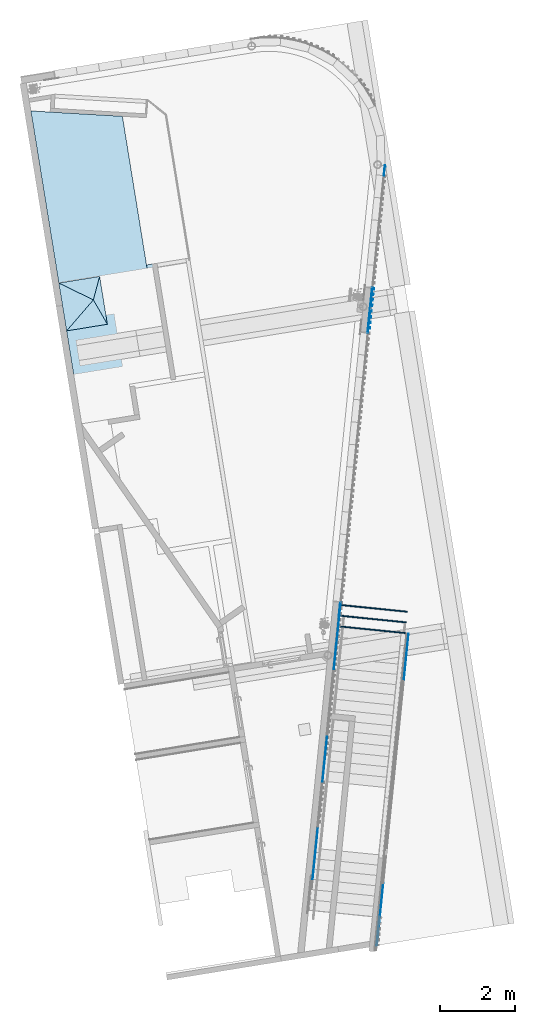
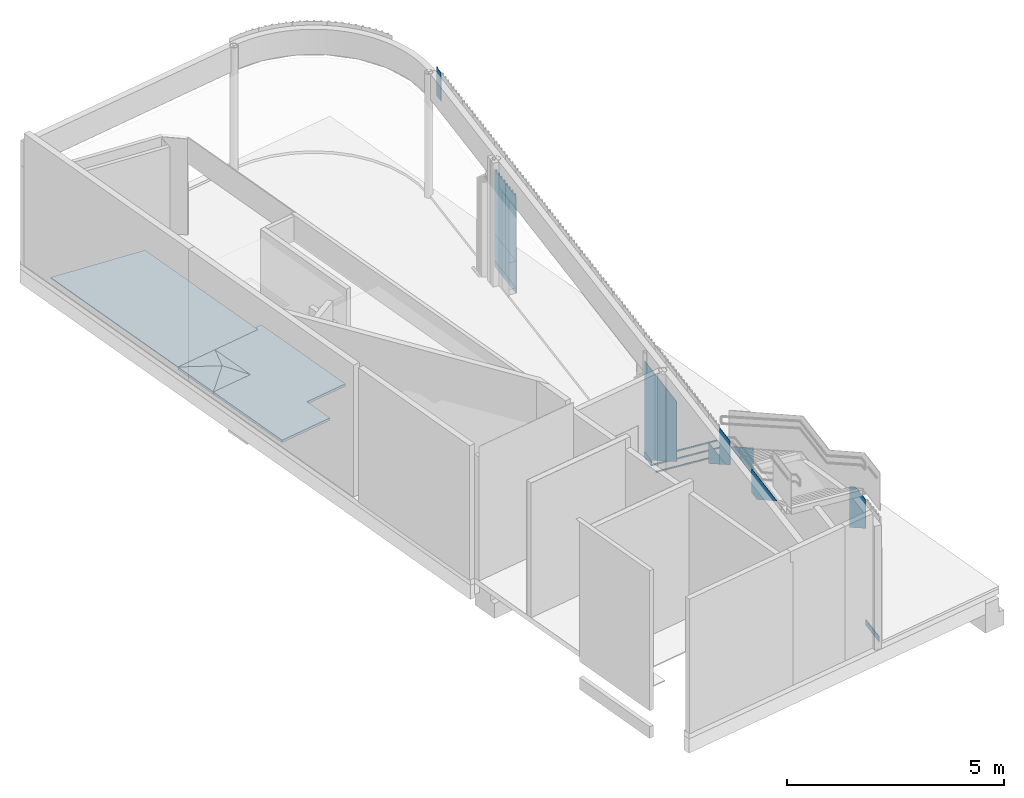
# One storey, part 7 of 23: 17 plates, 9 slabs, 5 elements without a shape of their own.
"""IFC2X3 building model written with IfcOpenShell, lengths in millimetres."""

from ifc_helpers import new_model, entity, si_unit, converted_unit, derived_unit, direction, frame, frame_2d, origin, origin_with_axes, origin_2d_with_axis, place, context, subcontext, project, spatial, polyline, rectangle, outline, extrude, faceted_brep, source, transform, mapped, material, layer, layer_set, layer_usage, type_object, element, aggregate, save


model = new_model("IFC2X3")

# Units and contexts
plan_context = context("Plan", 3, precision=1e-05, world=origin_with_axes())
model_context = context("Model", 3, precision=0.01, world=origin(), true_north=direction((6.12323399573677e-17, 1.0)))
body_context = subcontext(model_context, "Body", "Model", "MODEL_VIEW")
ifc_project = project(units=[converted_unit("PLANEANGLEUNIT", "DEGREE", entity("IfcPositiveLengthMeasure", 0.0174532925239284), si_unit("PLANEANGLEUNIT", "RADIAN"), dimensions=[0, 0, 0, 0, 0, 0, 0]), si_unit("AREAUNIT", "SQUARE_METRE"), si_unit("LENGTHUNIT", "METRE", prefix="MILLI"), si_unit("MASSUNIT", "GRAM", prefix="KILO"), si_unit("POWERUNIT", "WATT"), si_unit("PRESSUREUNIT", "PASCAL", prefix="KILO"), si_unit("FORCEUNIT", "NEWTON", prefix="KILO"), si_unit("ELECTRICVOLTAGEUNIT", "VOLT"), si_unit("ELECTRICCURRENTUNIT", "AMPERE"), si_unit("THERMODYNAMICTEMPERATUREUNIT", "DEGREE_CELSIUS"), si_unit("TIMEUNIT", "SECOND"), si_unit("VOLUMEUNIT", "CUBIC_METRE"), derived_unit("LINEARVELOCITYUNIT", [(si_unit("LENGTHUNIT", "METRE"), 1), (si_unit("TIMEUNIT", "SECOND"), -1)]), derived_unit("VOLUMETRICFLOWRATEUNIT", [(si_unit("VOLUMEUNIT", "CUBIC_METRE"), 1), (si_unit("TIMEUNIT", "SECOND"), -1)]), derived_unit("THERMALTRANSMITTANCEUNIT", [(si_unit("POWERUNIT", "WATT"), 1), (si_unit("THERMODYNAMICTEMPERATUREUNIT", "KELVIN"), -1), (si_unit("AREAUNIT", "SQUARE_METRE"), -1)]), derived_unit("SOUNDPRESSUREUNIT", [(si_unit("PRESSUREUNIT", "PASCAL"), 1)])], contexts=[model_context, plan_context])

# Site, building, storey
site_placement = place(None, frame((-0.00071070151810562, 0.00438415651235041, 0.0), z_axis=(0.0, 0.0, 1.0), x_axis=(-0.160236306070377, 0.987078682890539, 0.0)))
site = spatial("IfcSite", under=ifc_project, at=site_placement, Name="Default", CompositionType="ELEMENT")
building_placement = place(site_placement, origin_with_axes())
building = spatial("IfcBuilding", under=site, at=building_placement, Name="TOO", CompositionType="ELEMENT")
storey_placement = place(building_placement, frame((0.0, 0.0, 58999.9999999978), z_axis=(0.0, 0.0, 1.0), x_axis=(1.0, 0.0, 0.0)))
storey = spatial("IfcBuildingStorey", under=building, at=storey_placement, Name="Nivå F", CompositionType="ELEMENT", Elevation=58999.9999999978)

# Curtain wall, plates
curtain_wall_type = type_object("IfcCurtainWallType", Name="Curtain Wall:Curtain Wall Standard (Bruk kun denne)", PredefinedType="NOTDEFINED")
curtain_wall_1_placement = place(storey_placement, frame((0.0, 0.0, -58999.9999999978), z_axis=(0.0, 0.0, 1.0), x_axis=(1.0, 0.0, 0.0)))
curtain_wall_1 = element("IfcCurtainWall", 1, at=curtain_wall_1_placement, inside=storey, type_object=curtain_wall_type, Name="Curtain Wall:Curtain Wall Standard (Bruk kun denne)", ObjectType="Curtain Wall:Curtain Wall Standard (Bruk kun denne)")
ifc_material_1 = material(Name="A249 - S01 _sokkel veggkledning")
plate_type_1 = type_object("IfcPlateType", Name="A249-S02 - Sokkel veggkledning trespiler:A249-S02 - Sokkel veggkledning trespiler", PredefinedType="CURTAIN_PANEL", material=ifc_material_1)
shared_shape_1 = source(origin(), body_context, "Body", "SweptSolid", [
    extrude(rectangle(XDim=387.370780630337, YDim=20.0, at=origin_2d_with_axis()), origin(), (0.0, 0.0, 1.0), 149.999999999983),
])
plate_1_placement = place(curtain_wall_1_placement, frame((772034.62728734, -507014.440100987, 58999.9999999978), z_axis=(0.0, 0.0, 1.0), x_axis=(0.965925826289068, -0.258819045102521, 0.0)))
plate_1 = element("IfcPlate", 2, at=plate_1_placement, type_object=plate_type_1, material=ifc_material_1, Name="A249-S02 - Sokkel veggkledning trespiler:A249-S02 - Sokkel veggkledning trespiler", ObjectType="A249-S02 - Sokkel veggkledning trespiler:A249-S02 - Sokkel veggkledning trespiler", context=body_context, shape_type="MappedRepresentation", body=[
    mapped(shared_shape_1, transform((0.0, 0.0, 0.0), scale=1.0)),
])
ifc_material_2 = material(Name="A246 - T _veggkledning trespiler")
plate_type_2 = type_object("IfcPlateType", Name="System Panel:A246-T01 - Trespiler hovedpaviljong", PredefinedType="CURTAIN_PANEL", material=ifc_material_2)
shared_shape_2 = source(origin(), body_context, "Body", "SweptSolid", [
    extrude(outline(polyline([(-251.104329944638, -76.4230569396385), (125.55216497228, -76.4230569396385), (125.55216497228, 152.846113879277), (-251.104329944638, -76.4230569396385)])), frame((62.7760824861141, -10.0, 152.846113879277), z_axis=(0.0, 1.0, 0.0), x_axis=(1.0, 0.0, 0.0)), (0.0, 0.0, 1.0), 10.0),
])
plate_2_placement = place(curtain_wall_1_placement, frame((767982.913419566, -505928.786642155, 61470.7308291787), z_axis=(0.0, 0.0, 1.0), x_axis=(0.965925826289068, -0.258819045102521, 0.0)))
plate_2 = element("IfcPlate", 3, at=plate_2_placement, type_object=plate_type_2, material=ifc_material_2, Name="System Panel:A246-T01 - Trespiler hovedpaviljong", ObjectType="System Panel:A246-T01 - Trespiler hovedpaviljong", context=body_context, shape_type="MappedRepresentation", body=[
    mapped(shared_shape_2, transform((0.0, 0.0, 0.0), scale=1.0)),
])
plate_type_3 = type_object("IfcPlateType", Name="System Panel:A246-T01 - Trespiler hovedpaviljong", PredefinedType="CURTAIN_PANEL", material=ifc_material_2)
shared_shape_3 = source(origin(), body_context, "Body", "SweptSolid", [
    extrude(outline(polyline([(-23.3302375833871, -300.0), (205.938933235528, -300.0), (205.938933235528, 300.0), (-388.54762888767, 300.0), (-23.3302375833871, -300.0)])), frame((0.0, -10.0, 388.54762888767), z_axis=(0.0, 1.0, 0.0), x_axis=(0.0, 0.0, 1.0)), (0.0, 0.0, 1.0), 10.0),
])
plate_3_placement = place(curtain_wall_1_placement, frame((768454.602285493, -506055.175292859, 61105.5134378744), z_axis=(0.0, 0.0, 1.0), x_axis=(0.965925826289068, -0.258819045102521, 0.0)))
plate_3 = element("IfcPlate", 4, at=plate_3_placement, type_object=plate_type_3, material=ifc_material_2, Name="System Panel:A246-T01 - Trespiler hovedpaviljong", ObjectType="System Panel:A246-T01 - Trespiler hovedpaviljong", context=body_context, shape_type="MappedRepresentation", body=[
    mapped(shared_shape_3, transform((0.0, 0.0, 0.0), scale=1.0)),
])
plate_type_4 = type_object("IfcPlateType", Name="System Panel:A246-T01 - Trespiler hovedpaviljong", PredefinedType="CURTAIN_PANEL", material=ifc_material_2)
shared_shape_4 = source(origin(), body_context, "Body", "SweptSolid", [
    extrude(outline(polyline([(-753.765020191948, -300.0), (936.37371584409, -300.0), (936.37371584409, 300.0), (-1118.98241149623, 300.0), (-753.765020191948, -300.0)])), frame((0.0, -10.0, 1118.98241149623), z_axis=(0.0, 1.0, 0.0), x_axis=(0.0, 0.0, 1.0)), (0.0, 0.0, 1.0), 10.0),
])
plate_4_placement = place(curtain_wall_1_placement, frame((770772.824268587, -506676.341001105, 59644.6438726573), z_axis=(0.0, 0.0, 1.0), x_axis=(0.965925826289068, -0.258819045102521, 0.0)))
plate_4 = element("IfcPlate", 5, at=plate_4_placement, type_object=plate_type_4, material=ifc_material_2, Name="System Panel:A246-T01 - Trespiler hovedpaviljong", ObjectType="System Panel:A246-T01 - Trespiler hovedpaviljong", context=body_context, shape_type="MappedRepresentation", body=[
    mapped(shared_shape_4, transform((0.0, 0.0, 0.0), scale=1.0)),
])
plate_type_5 = type_object("IfcPlateType", Name="System Panel:A246-T01 - Trespiler hovedpaviljong", PredefinedType="CURTAIN_PANEL", material=ifc_material_2)
shared_shape_5 = source(origin(), body_context, "Body", "SweptSolid", [
    extrude(outline(polyline([(-936.373715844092, -300.0), (1118.98241149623, -300.0), (1118.98241149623, 300.0), (-1301.59110714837, 300.0), (-936.373715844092, -300.0)])), frame((0.0, -10.0, 1301.59110714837), z_axis=(0.0, 1.0, 0.0), x_axis=(0.0, 0.0, 1.0)), (0.0, 0.0, 1.0), 10.0),
])
plate_5_placement = place(curtain_wall_1_placement, frame((771352.37976436, -506831.632428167, 59279.426481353), z_axis=(0.0, 0.0, 1.0), x_axis=(0.965925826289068, -0.258819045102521, 0.0)))
plate_5 = element("IfcPlate", 6, at=plate_5_placement, type_object=plate_type_5, material=ifc_material_2, Name="System Panel:A246-T01 - Trespiler hovedpaviljong", ObjectType="System Panel:A246-T01 - Trespiler hovedpaviljong", context=body_context, shape_type="MappedRepresentation", body=[
    mapped(shared_shape_5, transform((0.0, 0.0, 0.0), scale=1.0)),
])
plate_type_6 = type_object("IfcPlateType", Name="System Panel:A246-T01 - Trespiler hovedpaviljong", PredefinedType="CURTAIN_PANEL", material=ifc_material_2)
shared_shape_6 = source(origin(), body_context, "Body", "SweptSolid", [
    extrude(outline(polyline([(-484.099270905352, -929.736245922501), (-235.176795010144, -929.736245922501), (1023.3930157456, 1137.91415746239), (510.873882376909, 1449.88232559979), (-814.99083220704, -728.32399121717), (-484.099270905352, -929.736245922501)])), frame((-17.4741561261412, -10.0, 1045.88529627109), z_axis=(0.0, 1.0, 0.0), x_axis=(-0.854198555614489, 0.0, 0.519946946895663)), (0.0, 0.0, 1.0), 10.0),
])
plate_6_placement = place(curtain_wall_1_placement, frame((771931.935260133, -506986.923855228, 59149.9999999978), z_axis=(0.0, 0.0, 1.0), x_axis=(0.965925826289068, -0.258819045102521, 0.0)))
plate_6 = element("IfcPlate", 7, at=plate_6_placement, type_object=plate_type_6, material=ifc_material_2, Name="System Panel:A246-T01 - Trespiler hovedpaviljong", ObjectType="System Panel:A246-T01 - Trespiler hovedpaviljong", context=body_context, shape_type="MappedRepresentation", body=[
    mapped(shared_shape_6, transform((0.0, 0.0, 0.0), scale=1.0)),
])

curtain_wall_2_placement = place(storey_placement, frame((0.0, 0.0, -58999.9999999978), z_axis=(0.0, 0.0, 1.0), x_axis=(1.0, 0.0, 0.0)))
curtain_wall_2 = element("IfcCurtainWall", 8, at=curtain_wall_2_placement, inside=storey, type_object=curtain_wall_type, Name="Curtain Wall:Curtain Wall Standard (Bruk kun denne)", ObjectType="Curtain Wall:Curtain Wall Standard (Bruk kun denne)")
plate_type_7 = type_object("IfcPlateType", Name="A249-S02 - Sokkel veggkledning trespiler:A249-S02 - Sokkel veggkledning trespiler", PredefinedType="CURTAIN_PANEL", material=ifc_material_1)
shared_shape_7 = source(origin(), body_context, "Body", "SweptSolid", [
    extrude(rectangle(XDim=1200.0, YDim=20.0, at=origin_2d_with_axis()), origin(), (0.0, 0.0, 1.0), 150.000000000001),
])
plate_7_placement = place(curtain_wall_2_placement, frame((779755.934453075, -509083.358120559, 58999.9999999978), z_axis=(0.0, 0.0, 1.0), x_axis=(0.965925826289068, -0.258819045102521, 0.0)))
plate_7 = element("IfcPlate", 9, at=plate_7_placement, type_object=plate_type_7, material=ifc_material_1, Name="A249-S02 - Sokkel veggkledning trespiler:A249-S02 - Sokkel veggkledning trespiler", ObjectType="A249-S02 - Sokkel veggkledning trespiler:A249-S02 - Sokkel veggkledning trespiler", context=body_context, shape_type="MappedRepresentation", body=[
    mapped(shared_shape_7, transform((0.0, 0.0, 0.0), scale=1.0)),
])
ifc_material_3 = material(Name="A200 - Treverk - Eik")
plate_type_8 = type_object("IfcPlateType", Name="A246 - T01 Trespiler-panel 600:A246-T01 Trespiler-panel 600", PredefinedType="CURTAIN_PANEL", material=ifc_material_3)
shared_shape_8 = source(origin(), body_context, "Body", "SweptSolid", [
    extrude(rectangle(XDim=39.9999999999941, YDim=40.0, at=frame_2d((-1.77635683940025e-14, 0.0), x_axis=(1.0, 0.0))), frame((-170.0, -30.0, 0.0), z_axis=(0.0, 0.0, 1.0), x_axis=(-1.0, 0.0, 0.0)), (0.0, 0.0, 1.0), 750.000000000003),
    extrude(rectangle(XDim=39.9999999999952, YDim=40.0, at=origin_2d_with_axis()), frame((-20.0, -30.0, 0.0), z_axis=(0.0, 0.0, 1.0), x_axis=(-1.0, 0.0, 0.0)), (0.0, 0.0, 1.0), 750.000000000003),
    extrude(rectangle(XDim=39.9999999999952, YDim=40.0, at=origin_2d_with_axis()), frame((130.0, -30.0, 0.0), z_axis=(0.0, 0.0, 1.0), x_axis=(-1.0, 0.0, 0.0)), (0.0, 0.0, 1.0), 750.000000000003),
    extrude(rectangle(XDim=39.9999999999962, YDim=40.0, at=origin_2d_with_axis()), frame((280.0, -30.0, 0.0), z_axis=(0.0, 0.0, 1.0), x_axis=(-1.0, 0.0, 0.0)), (0.0, 0.0, 1.0), 750.000000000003),
    extrude(rectangle(XDim=600.0, YDim=10.0, at=origin_2d_with_axis()), frame((0.0, -5.0, 0.0), z_axis=(0.0, 0.0, 1.0), x_axis=(-1.0, 0.0, 0.0)), (0.0, 0.0, 1.0), 750.000000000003),
])
plate_8_placement = place(curtain_wall_2_placement, frame((779466.156705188, -509005.712407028, 59149.9999999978), z_axis=(0.0, 0.0, 1.0), x_axis=(0.965925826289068, -0.258819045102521, 0.0)))
plate_8 = element("IfcPlate", 10, at=plate_8_placement, type_object=plate_type_8, material=ifc_material_3, Name="A246 - T01 Trespiler-panel 600:A246-T01 Trespiler-panel 600", ObjectType="A246 - T01 Trespiler-panel 600:A246-T01 Trespiler-panel 600", context=body_context, shape_type="MappedRepresentation", body=[
    mapped(shared_shape_8, transform((0.0, 0.0, 0.0), scale=1.0)),
])
plate_9_placement = place(curtain_wall_2_placement, frame((780045.712200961, -509161.003834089, 59149.9999999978), z_axis=(0.0, 0.0, 1.0), x_axis=(0.965925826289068, -0.258819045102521, 0.0)))
plate_9 = element("IfcPlate", 11, at=plate_9_placement, type_object=plate_type_8, material=ifc_material_3, Name="A246 - T01 Trespiler-panel 600:A246-T01 Trespiler-panel 600", ObjectType="A246 - T01 Trespiler-panel 600:A246-T01 Trespiler-panel 600", context=body_context, shape_type="MappedRepresentation", body=[
    mapped(shared_shape_8, transform((0.0, 0.0, 0.0), scale=1.0)),
])
plate_type_9 = type_object("IfcPlateType", Name="A246 - T01 Trespiler-panel 600:A246-T01 Trespiler-panel 600", PredefinedType="CURTAIN_PANEL", material=ifc_material_3)
shared_shape_9 = source(origin(), body_context, "Body", "SweptSolid", [
    extrude(rectangle(XDim=39.9999999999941, YDim=40.0, at=frame_2d((-1.77635683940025e-14, 0.0), x_axis=(1.0, 0.0))), frame((-170.0, -30.0, 0.0), z_axis=(0.0, 0.0, 1.0), x_axis=(-1.0, 0.0, 0.0)), (0.0, 0.0, 1.0), 1800.0),
    extrude(rectangle(XDim=39.9999999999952, YDim=40.0, at=origin_2d_with_axis()), frame((-20.0, -30.0, 0.0), z_axis=(0.0, 0.0, 1.0), x_axis=(-1.0, 0.0, 0.0)), (0.0, 0.0, 1.0), 1800.0),
    extrude(rectangle(XDim=39.9999999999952, YDim=40.0, at=origin_2d_with_axis()), frame((130.0, -30.0, 0.0), z_axis=(0.0, 0.0, 1.0), x_axis=(-1.0, 0.0, 0.0)), (0.0, 0.0, 1.0), 1800.0),
    extrude(rectangle(XDim=39.9999999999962, YDim=40.0, at=origin_2d_with_axis()), frame((280.0, -30.0, 0.0), z_axis=(0.0, 0.0, 1.0), x_axis=(-1.0, 0.0, 0.0)), (0.0, 0.0, 1.0), 1800.0),
    extrude(rectangle(XDim=600.0, YDim=10.0, at=origin_2d_with_axis()), frame((0.0, -5.0, 0.0), z_axis=(0.0, 0.0, 1.0), x_axis=(-1.0, 0.0, 0.0)), (0.0, 0.0, 1.0), 1800.0),
])
plate_10_placement = place(curtain_wall_2_placement, frame((779466.156705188, -509005.712407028, 59899.9999999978), z_axis=(0.0, 0.0, 1.0), x_axis=(0.965925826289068, -0.258819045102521, 0.0)))
plate_10 = element("IfcPlate", 12, at=plate_10_placement, type_object=plate_type_9, material=ifc_material_3, Name="A246 - T01 Trespiler-panel 600:A246-T01 Trespiler-panel 600", ObjectType="A246 - T01 Trespiler-panel 600:A246-T01 Trespiler-panel 600", context=body_context, shape_type="MappedRepresentation", body=[
    mapped(shared_shape_9, transform((0.0, 0.0, 0.0), scale=1.0)),
])
plate_11_placement = place(curtain_wall_2_placement, frame((780045.712200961, -509161.003834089, 59899.9999999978), z_axis=(0.0, 0.0, 1.0), x_axis=(0.965925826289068, -0.258819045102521, 0.0)))
plate_11 = element("IfcPlate", 13, at=plate_11_placement, type_object=plate_type_9, material=ifc_material_3, Name="A246 - T01 Trespiler-panel 600:A246-T01 Trespiler-panel 600", ObjectType="A246 - T01 Trespiler-panel 600:A246-T01 Trespiler-panel 600", context=body_context, shape_type="MappedRepresentation", body=[
    mapped(shared_shape_9, transform((0.0, 0.0, 0.0), scale=1.0)),
])

# Curtain wall, plate
curtain_wall_3_placement = place(storey_placement, frame((0.0, 0.0, -58999.9999999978), z_axis=(0.0, 0.0, 1.0), x_axis=(1.0, 0.0, 0.0)))
curtain_wall_3 = element("IfcCurtainWall", 14, at=curtain_wall_3_placement, inside=storey, type_object=curtain_wall_type, Name="Curtain Wall:Curtain Wall Standard (Bruk kun denne)", ObjectType="Curtain Wall:Curtain Wall Standard (Bruk kun denne)")
plate_type_10 = type_object("IfcPlateType", Name="System Panel:A246-T01 - Trespiler hovedpaviljong", PredefinedType="CURTAIN_PANEL", material=ifc_material_2)
shared_shape_10 = source(origin(), body_context, "Body", "SweptSolid", [
    extrude(outline(polyline([(-204.588385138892, -631.281329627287), (588.84658578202, -631.281329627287), (-179.669815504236, 631.281329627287), (-204.588385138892, 631.281329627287), (-204.588385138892, -631.281329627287)])), frame((0.0, -10.0, 204.588385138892), z_axis=(0.0, 1.0, 0.0), x_axis=(0.0, 0.0, 1.0)), (0.0, 0.0, 1.0), 10.0),
])
plate_12_placement = place(curtain_wall_3_placement, frame((770485.522323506, -508545.833480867, 59149.9999999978), z_axis=(0.0, 0.0, 1.0), x_axis=(0.965925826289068, -0.258819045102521, 0.0)))
plate_12 = element("IfcPlate", 15, at=plate_12_placement, type_object=plate_type_10, material=ifc_material_2, Name="System Panel:A246-T01 - Trespiler hovedpaviljong", ObjectType="System Panel:A246-T01 - Trespiler hovedpaviljong", context=body_context, shape_type="MappedRepresentation", body=[
    mapped(shared_shape_10, transform((0.0, 0.0, 0.0), scale=1.0)),
])

# Plate
plate_type_11 = type_object("IfcPlateType", Name="System Panel:A246-T01 - Trespiler hovedpaviljong", PredefinedType="CURTAIN_PANEL", material=ifc_material_2)
plate_13_placement = place(curtain_wall_1_placement, frame((765464.606801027, -505254.008417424, 61828.260869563), z_axis=(0.0, 0.0, 1.0), x_axis=(0.965925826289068, -0.258819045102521, 0.0)))
plate_13 = element("IfcPlate", 16, at=plate_13_placement, type_object=plate_type_11, Name="System Panel:A246-T01 - Trespiler hovedpaviljong", ObjectType="System Panel:A246-T01 - Trespiler hovedpaviljong", context=body_context, shape_type="Brep", body=[
    faceted_brep([(995.471104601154, -10.0, 8.41282599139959e-12), (995.471104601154, 0.0, 8.41282599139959e-12), (683.100323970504, 0.0, -2.27373675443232e-13), (683.100323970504, -10.0, -2.27373675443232e-13), (-420.471104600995, 0.0, 671.739130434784), (-420.471104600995, -10.0, 671.739130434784), (995.471104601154, -10.0, 671.739130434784), (995.471104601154, 0.0, 671.739130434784)], [[[0, 1, 2, 3]], [[4, 5, 3, 2]], [[6, 7, 1, 0]], [[5, 6, 0, 3]], [[7, 4, 2, 1]], [[7, 6, 5, 4]]], orient=[[False], [False], [False], [False], [False], [False]]),
])

plate_type_12 = type_object("IfcPlateType", Name="System Panel:A246-T01 - Trespiler hovedpaviljong", PredefinedType="CURTAIN_PANEL", material=ifc_material_2)
plate_14_placement = place(curtain_wall_1_placement, frame((767875.046789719, -505899.883865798, 61699.9999999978), z_axis=(0.0, 0.0, 1.0), x_axis=(0.965925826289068, -0.258819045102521, 0.0)))
plate_14 = element("IfcPlate", 17, at=plate_14_placement, type_object=plate_type_12, Name="System Panel:A246-T01 - Trespiler hovedpaviljong", ObjectType="System Panel:A246-T01 - Trespiler hovedpaviljong", context=body_context, shape_type="Brep", body=[
    faceted_brep([(-76.6564949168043, -10.0, -5.6843418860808e-14), (-76.6564949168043, -1.77635683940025e-15, -5.6843418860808e-14), (-287.370780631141, -1.77635683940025e-15, 128.260869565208), (-287.370780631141, -10.0, 128.260869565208), (-299.999999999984, -1.77635683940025e-15, 128.260869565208), (-299.999999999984, -10.0, 128.260869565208), (300.000000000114, -10.0, -2.27373675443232e-13), (300.000000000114, -1.77635683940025e-15, -2.27373675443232e-13), (-299.999999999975, -1.77635683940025e-15, 800.000000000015), (-299.999999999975, -10.0, 800.000000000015), (300.00000000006, -10.0, 800.000000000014), (300.00000000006, -1.77635683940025e-15, 800.000000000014)], [[[0, 1, 2, 3]], [[3, 2, 4, 5]], [[6, 7, 1, 0]], [[8, 9, 5, 4]], [[10, 11, 7, 6]], [[9, 10, 6, 0, 3, 5]], [[11, 8, 4, 2, 1, 7]], [[11, 10, 9, 8]]], orient=[[False], [False], [False], [False], [False], [False], [False], [False]]),
])

aggregate(curtain_wall_1, [plate_1, plate_2, plate_3, plate_4, plate_5, plate_6, plate_13, plate_14])

# Curtain wall, plate
curtain_wall_4_placement = place(storey_placement, frame((0.0, 0.0, -58999.9999999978), z_axis=(0.0, 0.0, 1.0), x_axis=(1.0, 0.0, 0.0)))
curtain_wall_4 = element("IfcCurtainWall", 18, at=curtain_wall_4_placement, inside=storey, type_object=curtain_wall_type, Name="Curtain Wall:Curtain Wall Standard (Bruk kun denne)", ObjectType="Curtain Wall:Curtain Wall Standard (Bruk kun denne)")
plate_type_13 = type_object("IfcPlateType", Name="A249-S02 - Sokkel veggkledning trespiler:A249-S02 - Sokkel veggkledning trespiler", PredefinedType="CURTAIN_PANEL", material=ifc_material_1)
plate_15_placement = place(curtain_wall_4_placement, frame((762677.189163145, -506453.596916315, 58999.9999999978), z_axis=(0.0, 0.0, 1.0), x_axis=(0.965925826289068, -0.258819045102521, 0.0)))
plate_15 = element("IfcPlate", 19, at=plate_15_placement, type_object=plate_type_13, Name="A249-S02 - Sokkel veggkledning trespiler:A249-S02 - Sokkel veggkledning trespiler", ObjectType="A249-S02 - Sokkel veggkledning trespiler:A249-S02 - Sokkel veggkledning trespiler", context=body_context, shape_type="Brep", body=[
    faceted_brep([(388.765535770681, -10.0, 0.0), (388.765535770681, -10.0, 150.000000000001), (1152.50000000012, -10.0, 150.000000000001), (1152.50000000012, -10.0, 0.0), (1152.50000000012, 10.0, 150.000000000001), (1152.50000000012, 10.0, 0.0), (383.406551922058, 10.0, 150.000000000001), (383.406551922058, 10.0, 0.0)], [[[0, 1, 2, 3]], [[3, 2, 4, 5]], [[6, 7, 5, 4]], [[7, 0, 3, 5]], [[1, 6, 4, 2]], [[7, 6, 1, 0]]], orient=[[False], [False], [False], [False], [False], [False]]),
])
aggregate(curtain_wall_4, [plate_15])

# Plate
plate_type_14 = type_object("IfcPlateType", Name="A246 - T01 Trespiler-panel tilpas:A246-T01 Trespiler-panel tilpas", PredefinedType="CURTAIN_PANEL", material=ifc_material_3)
plate_16_placement = place(curtain_wall_2_placement, frame((783365.568111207, -510050.556544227, 61702.4999999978), z_axis=(0.0, 0.0, 1.0), x_axis=(0.965925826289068, -0.258819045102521, 0.0)))
plate_16 = element("IfcPlate", 20, at=plate_16_placement, type_object=plate_type_14, Name="A246 - T01 Trespiler-panel tilpas:A246-T01 Trespiler-panel tilpas", ObjectType="A246 - T01 Trespiler-panel tilpas:A246-T01 Trespiler-panel tilpas", context=body_context, shape_type="Brep", body=[
    faceted_brep([(136.96774627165, -17.0552360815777, 0.0), (136.96774627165, -17.055236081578, 797.499999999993), (136.96774627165, -9.9999999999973, 797.499999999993), (136.96774627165, -9.9999999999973, 0.0), (96.9677462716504, -9.9999999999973, 797.499999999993), (96.9677462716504, -9.9999999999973, 0.0), (96.96774627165, -27.7732037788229, 797.499999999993), (96.9677462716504, -27.7732037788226, 0.0)], [[[0, 1, 2, 3]], [[2, 4, 5, 3]], [[4, 6, 7, 5]], [[7, 0, 3, 5]], [[1, 0, 7, 6]], [[6, 4, 2, 1]]], orient=[[False], [False], [False], [False], [False], [False]]),
    faceted_brep([(136.967746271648, -10.0, 797.499999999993), (136.967746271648, 0.0, 797.499999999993), (136.967746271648, 0.0, 0.0), (136.967746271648, -10.0, 0.0), (-136.967746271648, 0.0, 797.499999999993), (-136.967746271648, 0.0, 0.0), (-136.967746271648, -10.0, 797.499999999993), (-136.967746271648, -10.0, 0.0)], [[[0, 1, 2, 3]], [[1, 4, 5, 2]], [[4, 6, 7, 5]], [[6, 0, 3, 7]], [[3, 2, 5, 7]], [[6, 4, 1, 0]]], orient=[[False], [False], [False], [False], [False], [False]]),
])

aggregate(curtain_wall_2, [plate_7, plate_8, plate_9, plate_10, plate_11, plate_16])

plate_type_15 = type_object("IfcPlateType", Name="System Panel:A246-T01 - Trespiler hovedpaviljong", PredefinedType="CURTAIN_PANEL", material=ifc_material_2)
plate_17_placement = place(curtain_wall_3_placement, frame((764225.050951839, -506868.345232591, 61152.1306230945), z_axis=(0.0, 0.0, 1.0), x_axis=(0.965925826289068, -0.258819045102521, 0.0)))
plate_17 = element("IfcPlate", 21, at=plate_17_placement, type_object=plate_type_15, Name="System Panel:A246-T01 - Trespiler hovedpaviljong", ObjectType="System Panel:A246-T01 - Trespiler hovedpaviljong", context=body_context, shape_type="Brep", body=[
    faceted_brep([(450.0, -10.0, -1.13686837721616e-13), (450.0, -3.5527136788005e-15, -1.13686837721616e-13), (-450.0, -3.5527136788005e-15, 547.826086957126), (-450.0, -10.0, 547.826086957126), (-450.0, -3.5527136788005e-15, 1347.86937690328), (-450.0, -10.0, 1347.86937690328), (124.928880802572, -10.0, 1347.86937690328), (124.928880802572, -3.5527136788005e-15, 1347.86937690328), (450.0, -3.5527136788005e-15, 1150.00000000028), (450.0, -10.0, 1150.00000000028)], [[[0, 1, 2, 3]], [[4, 5, 3, 2]], [[6, 7, 8, 9]], [[9, 8, 1, 0]], [[5, 6, 9, 0, 3]], [[7, 4, 2, 1, 8]], [[7, 6, 5, 4]]], orient=[[False], [False], [False], [False], [False], [False], [False]]),
])

aggregate(curtain_wall_3, [plate_12, plate_17])

# Slabs
ifc_material_4 = material(Name="<Unnamed>")
ifc_layer_1 = layer(ifc_material_4, 20.0)
ifc_layer_set_1 = layer_set([ifc_layer_1], Name="Floor:A258-X07 Varsel & Oppmerksomhetsfelt - taktil (NATURSTEINGULV)")
ifc_layer_usage_1 = layer_usage(ifc_layer_set_1, "AXIS3", "POSITIVE", 0.0)
slab_type_1 = type_object("IfcSlabType", Name="Floor:A258-X07 Varsel & Oppmerksomhetsfelt - taktil (NATURSTEINGULV)", PredefinedType="FLOOR", material=ifc_layer_set_1)
slab_1_placement = place(storey_placement, frame((729752.619644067, -532832.48049853, -19.0), z_axis=(0.0, 0.0, 1.0), x_axis=(1.0, 0.0, 0.0)))
element("IfcSlab", 22, at=slab_1_placement, inside=storey, type_object=slab_type_1, material=ifc_layer_usage_1, Name="Floor:A258-X07 Varsel & Oppmerksomhetsfelt - taktil (NATURSTEINGULV):22", ObjectType="Floor:A258-X07 Varsel & Oppmerksomhetsfelt - taktil (NATURSTEINGULV)", PredefinedType="FLOOR", shape_type="SweptSolid", body=[
    extrude(rectangle(XDim=1800.00000000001, YDim=29.9999999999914, at=frame_2d((21681.8208579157, 6458.29522643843), x_axis=(0.258819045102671, -0.965925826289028))), frame((63844.5000000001, 18465.0, 20.0), z_axis=(0.0, 0.0, -1.0), x_axis=(-1.0, 0.0, 0.0)), (0.0, 0.0, 1.0), 20.0000000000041),
])
slab_2_placement = place(storey_placement, frame((729752.619644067, -532832.48049853, -19.0), z_axis=(0.0, 0.0, 1.0), x_axis=(1.0, 0.0, 0.0)))
element("IfcSlab", 23, at=slab_2_placement, inside=storey, type_object=slab_type_1, material=ifc_layer_usage_1, Name="Floor:A258-X07 Varsel & Oppmerksomhetsfelt - taktil (NATURSTEINGULV):23", ObjectType="Floor:A258-X07 Varsel & Oppmerksomhetsfelt - taktil (NATURSTEINGULV)", PredefinedType="FLOOR", shape_type="SweptSolid", body=[
    extrude(rectangle(XDim=1800.00000000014, YDim=29.9999999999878, at=frame_2d((21957.1097184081, 6532.05865429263), x_axis=(0.25881904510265, -0.965925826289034))), frame((63844.5000000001, 18465.0, 20.0), z_axis=(0.0, 0.0, -1.0), x_axis=(-1.0, 0.0, 0.0)), (0.0, 0.0, 1.0), 20.0000000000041),
])
slab_3_placement = place(storey_placement, frame((729752.619644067, -532832.48049853, -19.0), z_axis=(0.0, 0.0, 1.0), x_axis=(1.0, 0.0, 0.0)))
element("IfcSlab", 24, at=slab_3_placement, inside=storey, type_object=slab_type_1, material=ifc_layer_usage_1, Name="Floor:A258-X07 Varsel & Oppmerksomhetsfelt - taktil (NATURSTEINGULV):24", ObjectType="Floor:A258-X07 Varsel & Oppmerksomhetsfelt - taktil (NATURSTEINGULV)", PredefinedType="FLOOR", shape_type="SweptSolid", body=[
    extrude(rectangle(XDim=1799.99999999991, YDim=29.9999999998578, at=frame_2d((22232.3985789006, 6605.82208214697), x_axis=(0.258819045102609, -0.965925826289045))), frame((63844.5000000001, 18465.0, 20.0), z_axis=(0.0, 0.0, -1.0), x_axis=(-1.0, 0.0, 0.0)), (0.0, 0.0, 1.0), 20.0000000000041),
])
ifc_material_5 = material(Name="A255-Flis Apavisa 600x600")
ifc_layer_2 = layer(ifc_material_5, 5.0)
ifc_material_6 = material(Name="A255 - Avretting")
ifc_layer_3 = layer(ifc_material_6, 65.0)
ifc_layer_set_2 = layer_set([ifc_layer_2, ifc_layer_3], Name="Floor:A255-K03 Keramisk flis - Lys 600x600mm (KA)")
ifc_layer_usage_2 = layer_usage(ifc_layer_set_2, "AXIS3", "POSITIVE", 0.0)
slab_type_2 = type_object("IfcSlabType", Name="Floor:A255-K03 Keramisk flis - Lys 600x600mm (KA)", PredefinedType="FLOOR", material=ifc_layer_set_2)
slab_4_placement = place(storey_placement, origin_with_axes())
element("IfcSlab", 25, at=slab_4_placement, inside=storey, type_object=slab_type_2, material=ifc_layer_usage_2, Name="Floor:A255-K03 Keramisk flis - Lys 600x600mm (KA)", ObjectType="Floor:A255-K03 Keramisk flis - Lys 600x600mm (KA)", PredefinedType="FLOOR", context=body_context, shape_type="SweptSolid", body=[
    extrude(outline(polyline([(69.9003687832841, -2204.60000000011), (1492.40036878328, -2204.60000000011), (1492.40036878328, 298.399999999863), (392.400368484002, 298.399999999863), (392.400368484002, 1587.89999999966), (-887.601474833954, 1587.89999999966), (-887.601474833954, 1687.89999999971), (-1067.09963121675, 1687.89999999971), (-1067.09963121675, -1369.59999999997), (69.9003687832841, -1369.59999999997), (69.9003687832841, -2204.60000000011)])), frame((780209.719644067, -502519.880867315, 0.0), z_axis=(0.0, 0.0, -1.0), x_axis=(0.0, 1.0, 0.0)), (0.0, 0.0, 1.0), 70.0000000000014),
])

slab_5_placement = place(storey_placement, frame((780508.119644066, -502127.480498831, -84.0), z_axis=(0.0, 0.0, 1.0), x_axis=(1.0, 0.0, 0.0)))
slab_5 = element("IfcSlab", 26, at=slab_5_placement, inside=storey, Name="Floor:A255-K03 Keramisk flis - Lys 600x600mm (KA)", ObjectType="Floor:A255-K03 Keramisk flis - Lys 600x600mm (KA)", PredefinedType="FLOOR")
slab_6_placement = place(slab_5_placement, origin_with_axes())
slab_6 = element("IfcSlab", 27, at=slab_6_placement, type_object=slab_type_2, material=ifc_layer_set_2, Name="Floor:A255-K03 Keramisk flis - Lys 600x600mm (KA)", ObjectType="Floor:A255-K03 Keramisk flis - Lys 600x600mm (KA)", PredefinedType="FLOOR", context=body_context, shape_type="SweptSolid", body=[
    extrude(outline(polyline([(-350.033267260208, 550.000000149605), (-350.033267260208, -550.000000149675), (350.033267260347, -285.775253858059), (-350.033267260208, 550.000000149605)])), frame((349.963266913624, 550.000000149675, 77.0), z_axis=(0.0199980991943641, 0.0, 0.99980001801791), x_axis=(0.99980001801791, 0.0, -0.0199980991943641)), (0.0199980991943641, 0.0, -0.99980001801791), 70.0000000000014),
])
slab_7_placement = place(slab_5_placement, origin_with_axes())
slab_7 = element("IfcSlab", 28, at=slab_7_placement, type_object=slab_type_2, material=ifc_layer_set_2, Name="Floor:A255-K03 Keramisk flis - Lys 600x600mm (KA)", ObjectType="Floor:A255-K03 Keramisk flis - Lys 600x600mm (KA)", PredefinedType="FLOOR", context=body_context, shape_type="SweptSolid", body=[
    extrude(outline(polyline([(-728.974060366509, 100.585214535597), (-29.0475265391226, -735.307287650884), (560.525939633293, 100.585214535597), (-728.974060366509, 100.585214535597)])), frame((728.974060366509, 999.42889455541, 82.3153419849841), z_axis=(0.0, -0.0167485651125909, 0.999859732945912), x_axis=(1.0, 0.0, 0.0)), (0.0, -0.0167485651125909, -0.999859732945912), 70.0000000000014),
])
slab_8_placement = place(slab_5_placement, origin_with_axes())
slab_8 = element("IfcSlab", 29, at=slab_8_placement, type_object=slab_type_2, material=ifc_layer_set_2, Name="Floor:A255-K03 Keramisk flis - Lys 600x600mm (KA)", ObjectType="Floor:A255-K03 Keramisk flis - Lys 600x600mm (KA)", PredefinedType="FLOOR", context=body_context, shape_type="SweptSolid", body=[
    extrude(outline(polyline([(-644.749999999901, -132.297691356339), (644.749999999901, -132.297691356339), (55.1765338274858, 132.297691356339), (-644.749999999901, -132.297691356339)])), frame((644.749999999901, 132.112373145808, 77.0), z_axis=(0.0, 0.0529109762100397, 0.998599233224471), x_axis=(1.0, 0.0, 0.0)), (0.0, 0.0529109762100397, -0.998599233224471), 70.0000000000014),
])
slab_9_placement = place(slab_5_placement, origin_with_axes())
slab_9 = element("IfcSlab", 30, at=slab_9_placement, type_object=slab_type_2, material=ifc_layer_set_2, Name="Floor:A255-K03 Keramisk flis - Lys 600x600mm (KA)", ObjectType="Floor:A255-K03 Keramisk flis - Lys 600x600mm (KA)", PredefinedType="FLOOR", context=body_context, shape_type="SweptSolid", body=[
    extrude(outline(polyline([(294.869832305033, -550.000000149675), (294.869832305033, 550.000000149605), (-294.869832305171, -285.775253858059), (294.869832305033, -550.000000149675)])), frame((994.713266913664, 550.000000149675, 77.0), z_axis=(-0.0237392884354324, 0.0, 0.999718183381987), x_axis=(0.999718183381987, 0.0, 0.0237392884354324)), (-0.0237392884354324, 0.0, -0.999718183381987), 70.0000000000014),
])
aggregate(slab_5, [slab_6, slab_7, slab_8, slab_9])

# Slab
ifc_material_7 = material(Name="A255 - Vinylbelegg våtrom")
ifc_layer_4 = layer(ifc_material_7, 3.0)
ifc_material_8 = material(Name="_NSW Generell Gulv (Floor)")
ifc_layer_5 = layer(ifc_material_8, 17.0)
ifc_layer_set_3 = layer_set([ifc_layer_4, ifc_layer_5], Name="Floor:A255-B10 Vinylgulv 3mm (KA)")
ifc_layer_usage_3 = layer_usage(ifc_layer_set_3, "AXIS3", "POSITIVE", 0.0)
slab_type_3 = type_object("IfcSlabType", Name="Floor:A255-B10 Vinylgulv 3mm (KA)", PredefinedType="FLOOR", material=ifc_layer_set_3)
slab_10_placement = place(storey_placement, origin_with_axes())
element("IfcSlab", 31, at=slab_10_placement, inside=storey, type_object=slab_type_3, material=ifc_layer_usage_3, Name="Floor:A255-B10 Vinylgulv 3mm (KA)", ObjectType="Floor:A255-B10 Vinylgulv 3mm (KA)", PredefinedType="FLOOR", context=body_context, shape_type="SweptSolid", body=[
    extrude(outline(polyline([(-1190.00092180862, -2186.31479158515), (1190.00092180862, -2186.31479158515), (1190.00092180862, 2452.31151228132), (-1190.00092180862, 1920.31807088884), (-1190.00092180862, -2186.31479158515)])), frame((783983.934435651, -502217.481420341, 0.0), z_axis=(0.0, 0.0, -1.0), x_axis=(0.0, 1.0, 0.0)), (0.0, 0.0, 1.0), 20.0000000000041),
])

save(model, "model.ifc")
